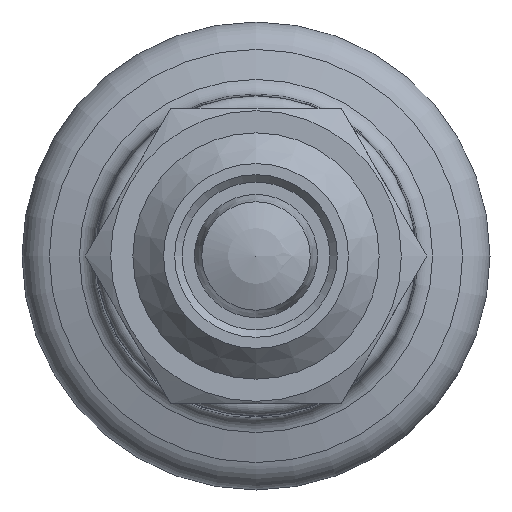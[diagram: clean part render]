
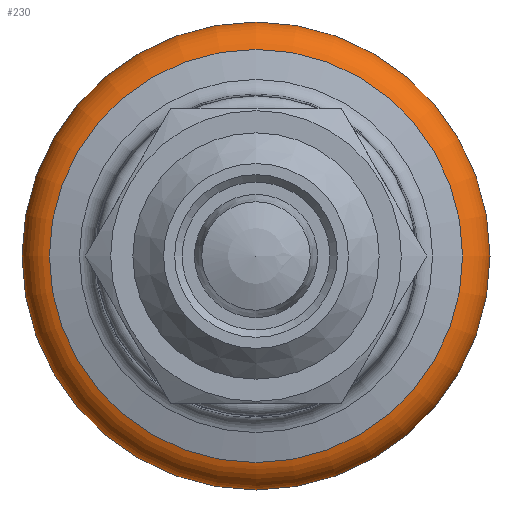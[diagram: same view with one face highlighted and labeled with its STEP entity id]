
A CAD part, front view. The second image highlights one B-rep face of the part: STEP entity #230.
In plain terms, the highlighted toroidal (fillet/blend) face has major radius 8 mm and minor radius 1.5 mm.
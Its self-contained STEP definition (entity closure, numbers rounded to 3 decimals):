
#230 = ADVANCED_FACE( '', ( #312, #313 ), #314, .T. );
#312 = FACE_OUTER_BOUND( '', #455, .T. );
#313 = FACE_OUTER_BOUND( '', #456, .T. );
#314 = TOROIDAL_SURFACE( '', #457, 8., 1.5 );
#455 = EDGE_LOOP( '', ( #636 ) );
#456 = EDGE_LOOP( '', ( #637 ) );
#457 = AXIS2_PLACEMENT_3D( '', #638, #639, #640 );
#636 = ORIENTED_EDGE( '', *, *, #741, .T. );
#637 = ORIENTED_EDGE( '', *, *, #742, .F. );
#638 = CARTESIAN_POINT( '', ( 0., 43.651, 0. ) );
#639 = DIRECTION( '', ( 0., -1., 0. ) );
#640 = DIRECTION( '', ( 0., 0., -1. ) );
#741 = EDGE_CURVE( '', #818, #818, #819, .T. );
#742 = EDGE_CURVE( '', #820, #820, #821, .T. );
#818 = VERTEX_POINT( '', #1022 );
#819 = CIRCLE( '', #1023, 9.5 );
#820 = VERTEX_POINT( '', #1024 );
#821 = CIRCLE( '', #1025, 8.388 );
#1022 = CARTESIAN_POINT( '', ( 0., 43.651, -9.5 ) );
#1023 = AXIS2_PLACEMENT_3D( '', #1104, #1105, #1106 );
#1024 = CARTESIAN_POINT( '', ( 0., 42.202, -8.388 ) );
#1025 = AXIS2_PLACEMENT_3D( '', #1107, #1108, #1109 );
#1104 = CARTESIAN_POINT( '', ( 0., 43.651, 0. ) );
#1105 = DIRECTION( '', ( 0., -1., 0. ) );
#1106 = DIRECTION( '', ( 0., 0., -1. ) );
#1107 = CARTESIAN_POINT( '', ( 0., 42.202, 0. ) );
#1108 = DIRECTION( '', ( 0., -1., 0. ) );
#1109 = DIRECTION( '', ( 0., 0., -1. ) );
